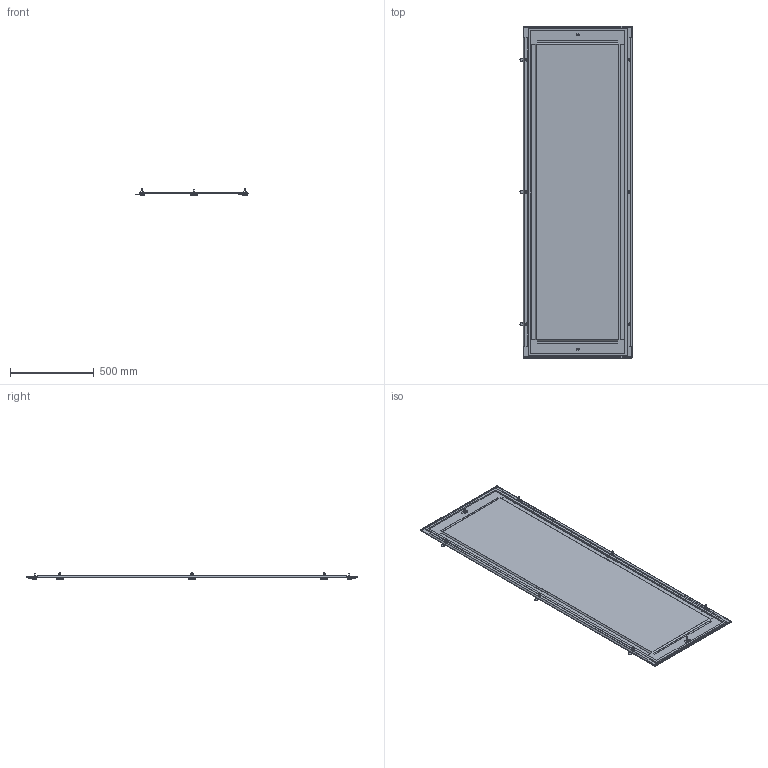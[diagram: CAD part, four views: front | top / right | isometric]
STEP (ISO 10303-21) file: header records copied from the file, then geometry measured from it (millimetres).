
FILE_DESCRIPTION((''),'2;1');
FILE_NAME('SB106064_3D_COLOUR','2013-07-25T',('SESA214371'),('Schneider-Electric'),'PRO/ENGINEER BY PARAMETRIC TECHNOLOGY CORPORATION, 2011410','PRO/ENGINEER BY PARAMETRIC TECHNOLOGY CORPORATION, 2011410','');
FILE_SCHEMA(('CONFIG_CONTROL_DESIGN'));
Length unit declared in the file: millimetre
Products named in the file (1): SB106064_3D_COLOUR
Bounding box: 667 x 1977 x 36.97 mm (x, y, z)
Volume: 2865430.4 mm3; surface area: 4744090.7 mm2
Topology: 1 solids, 1 shells, 504 faces, 1328 edges, 900 vertices
Faces by surface type: plane 374, cylinder 114, extrusion 16
Entity records: 16060 total; most frequent: CARTESIAN_POINT 3444, ORIENTED_EDGE 2656, DIRECTION 2473, EDGE_CURVE 1328, VERTEX_POINT 900, VECTOR 881, LINE 865, AXIS2_PLACEMENT_3D 796
